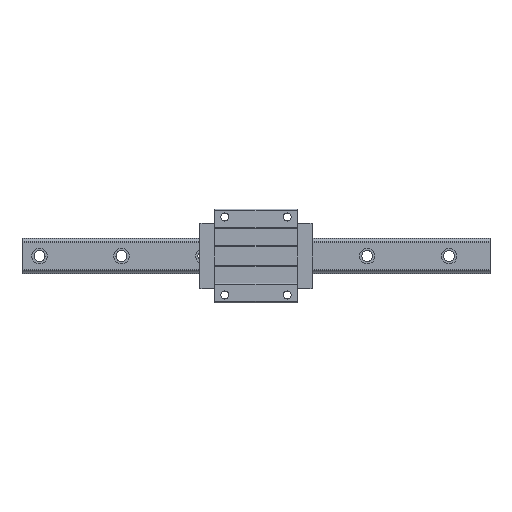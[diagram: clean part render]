
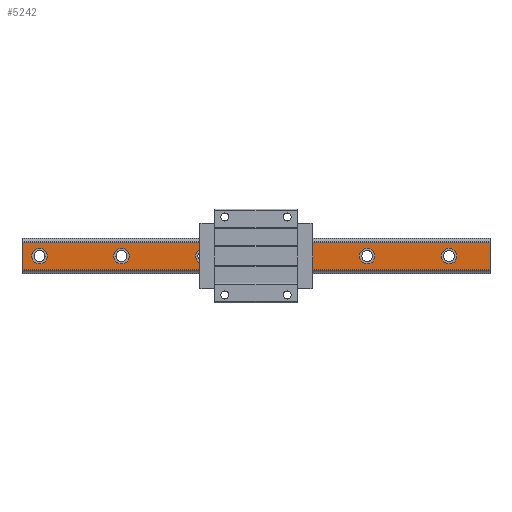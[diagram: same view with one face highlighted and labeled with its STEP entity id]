
A CAD part, top view. The second image highlights one B-rep face of the part: STEP entity #5242.
In plain terms, the highlighted planar face has unit normal (0, 0, 1).
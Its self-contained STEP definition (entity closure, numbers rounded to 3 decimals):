
#33 = EDGE_CURVE ( 'NONE', #6596, #578, #178, .T. ) ;
#52 = DIRECTION ( 'NONE',  ( -1., 0., 0. ) ) ;
#84 = EDGE_CURVE ( 'NONE', #4070, #6828, #4491, .T. ) ;
#178 = CIRCLE ( 'NONE', #299, 10. ) ;
#191 = CIRCLE ( 'NONE', #4862, 10. ) ;
#208 = ORIENTED_EDGE ( 'NONE', *, *, #3555, .F. ) ;
#223 = VERTEX_POINT ( 'NONE', #5679 ) ;
#256 = CARTESIAN_POINT ( 'NONE',  ( -300., -17.738, 32. ) ) ;
#287 = DIRECTION ( 'NONE',  ( 1., 0., 0. ) ) ;
#299 = AXIS2_PLACEMENT_3D ( 'NONE', #3588, #4596, #6356 ) ;
#455 = FACE_BOUND ( 'NONE', #4272, .T. ) ;
#472 = DIRECTION ( 'NONE',  ( 1., 0., 0. ) ) ;
#485 = CIRCLE ( 'NONE', #5388, 10. ) ;
#505 = EDGE_LOOP ( 'NONE', ( #4504, #1617 ) ) ;
#533 = DIRECTION ( 'NONE',  ( 0., 0., 1. ) ) ;
#578 = VERTEX_POINT ( 'NONE', #2664 ) ;
#604 = CARTESIAN_POINT ( 'NONE',  ( 27.5, 0., 32. ) ) ;
#677 = AXIS2_PLACEMENT_3D ( 'NONE', #1226, #5194, #5721 ) ;
#724 = LINE ( 'NONE', #1427, #878 ) ;
#748 = CARTESIAN_POINT ( 'NONE',  ( 300., 17.738, 32. ) ) ;
#865 = DIRECTION ( 'NONE',  ( 0., -1., 0. ) ) ;
#878 = VECTOR ( 'NONE', #865, 1000. ) ;
#883 = CARTESIAN_POINT ( 'NONE',  ( -172.5, 0., 32. ) ) ;
#928 = CARTESIAN_POINT ( 'NONE',  ( -300., -17.738, 32. ) ) ;
#1077 = ORIENTED_EDGE ( 'NONE', *, *, #5182, .F. ) ;
#1085 = DIRECTION ( 'NONE',  ( 0., -1., 0. ) ) ;
#1110 = EDGE_LOOP ( 'NONE', ( #5465, #3053, #2843, #7243 ) ) ;
#1161 = PLANE ( 'NONE',  #6902 ) ;
#1226 = CARTESIAN_POINT ( 'NONE',  ( 37.5, 0., 32. ) ) ;
#1249 = EDGE_CURVE ( 'NONE', #578, #6596, #2458, .T. ) ;
#1323 = CARTESIAN_POINT ( 'NONE',  ( 300., -17.738, 32. ) ) ;
#1372 = DIRECTION ( 'NONE',  ( -1., 0., 0. ) ) ;
#1427 = CARTESIAN_POINT ( 'NONE',  ( 300., -17.738, 32. ) ) ;
#1585 = CARTESIAN_POINT ( 'NONE',  ( 142.5, 0., 32. ) ) ;
#1593 = CARTESIAN_POINT ( 'NONE',  ( -77.5, 0., 32. ) ) ;
#1617 = ORIENTED_EDGE ( 'NONE', *, *, #7011, .F. ) ;
#1650 = FACE_BOUND ( 'NONE', #2012, .T. ) ;
#1796 = VECTOR ( 'NONE', #1372, 1000. ) ;
#1819 = AXIS2_PLACEMENT_3D ( 'NONE', #7057, #4127, #6469 ) ;
#1840 = ORIENTED_EDGE ( 'NONE', *, *, #6506, .F. ) ;
#1862 = VERTEX_POINT ( 'NONE', #4531 ) ;
#1930 = LINE ( 'NONE', #4231, #1796 ) ;
#1987 = DIRECTION ( 'NONE',  ( 0., 0., 1. ) ) ;
#2012 = EDGE_LOOP ( 'NONE', ( #4780, #208 ) ) ;
#2128 = CARTESIAN_POINT ( 'NONE',  ( -287.5, 0., 32. ) ) ;
#2242 = CIRCLE ( 'NONE', #3086, 10. ) ;
#2258 = EDGE_CURVE ( 'NONE', #1862, #3274, #4497, .T. ) ;
#2278 = CARTESIAN_POINT ( 'NONE',  ( 300., -17.738, 32. ) ) ;
#2314 = FACE_BOUND ( 'NONE', #6465, .T. ) ;
#2319 = CARTESIAN_POINT ( 'NONE',  ( -172.5, 0., 32. ) ) ;
#2320 = VERTEX_POINT ( 'NONE', #3319 ) ;
#2331 = DIRECTION ( 'NONE',  ( 1., 0., 0. ) ) ;
#2352 = VERTEX_POINT ( 'NONE', #1593 ) ;
#2458 = CIRCLE ( 'NONE', #677, 10. ) ;
#2491 = DIRECTION ( 'NONE',  ( 0., 0., 1. ) ) ;
#2493 = EDGE_CURVE ( 'NONE', #5320, #2352, #191, .T. ) ;
#2537 = CARTESIAN_POINT ( 'NONE',  ( 152.5, 0., 32. ) ) ;
#2559 = CARTESIAN_POINT ( 'NONE',  ( 142.5, 0., 32. ) ) ;
#2585 = DIRECTION ( 'NONE',  ( 1., 0., 0. ) ) ;
#2664 = CARTESIAN_POINT ( 'NONE',  ( 47.5, 0., 32. ) ) ;
#2745 = AXIS2_PLACEMENT_3D ( 'NONE', #2319, #533, #5773 ) ;
#2843 = ORIENTED_EDGE ( 'NONE', *, *, #4744, .F. ) ;
#3011 = VERTEX_POINT ( 'NONE', #256 ) ;
#3046 = DIRECTION ( 'NONE',  ( 1., 0., 0. ) ) ;
#3053 = ORIENTED_EDGE ( 'NONE', *, *, #4556, .F. ) ;
#3086 = AXIS2_PLACEMENT_3D ( 'NONE', #3340, #5131, #3407 ) ;
#3171 = DIRECTION ( 'NONE',  ( 0., 0., 1. ) ) ;
#3267 = VECTOR ( 'NONE', #3782, 1000. ) ;
#3274 = VERTEX_POINT ( 'NONE', #2128 ) ;
#3319 = CARTESIAN_POINT ( 'NONE',  ( -162.5, 0., 32. ) ) ;
#3340 = CARTESIAN_POINT ( 'NONE',  ( 247.5, 0., 32. ) ) ;
#3349 = DIRECTION ( 'NONE',  ( 0., 0., 1. ) ) ;
#3354 = CARTESIAN_POINT ( 'NONE',  ( -57.5, 0., 32. ) ) ;
#3407 = DIRECTION ( 'NONE',  ( 1., 0., 0. ) ) ;
#3555 = EDGE_CURVE ( 'NONE', #3274, #1862, #3741, .T. ) ;
#3588 = CARTESIAN_POINT ( 'NONE',  ( 37.5, 0., 32. ) ) ;
#3643 = EDGE_CURVE ( 'NONE', #6546, #3011, #6133, .T. ) ;
#3709 = ORIENTED_EDGE ( 'NONE', *, *, #84, .F. ) ;
#3741 = CIRCLE ( 'NONE', #1819, 10. ) ;
#3782 = DIRECTION ( 'NONE',  ( 0., -1., 0. ) ) ;
#3869 = ORIENTED_EDGE ( 'NONE', *, *, #7109, .F. ) ;
#3946 = FACE_BOUND ( 'NONE', #505, .T. ) ;
#3964 = CARTESIAN_POINT ( 'NONE',  ( -277.5, 0., 32. ) ) ;
#3981 = ORIENTED_EDGE ( 'NONE', *, *, #4429, .F. ) ;
#4070 = VERTEX_POINT ( 'NONE', #7279 ) ;
#4124 = ORIENTED_EDGE ( 'NONE', *, *, #33, .F. ) ;
#4127 = DIRECTION ( 'NONE',  ( 0., 0., 1. ) ) ;
#4189 = CIRCLE ( 'NONE', #2745, 10. ) ;
#4231 = CARTESIAN_POINT ( 'NONE',  ( 300., 17.738, 32. ) ) ;
#4272 = EDGE_LOOP ( 'NONE', ( #1840, #3869 ) ) ;
#4422 = AXIS2_PLACEMENT_3D ( 'NONE', #5351, #2491, #4789 ) ;
#4429 = EDGE_CURVE ( 'NONE', #6828, #4070, #5067, .T. ) ;
#4491 = CIRCLE ( 'NONE', #7216, 10. ) ;
#4497 = CIRCLE ( 'NONE', #6759, 10. ) ;
#4504 = ORIENTED_EDGE ( 'NONE', *, *, #2493, .F. ) ;
#4526 = DIRECTION ( 'NONE',  ( 0., 0., 1. ) ) ;
#4531 = CARTESIAN_POINT ( 'NONE',  ( -267.5, 0., 32. ) ) ;
#4556 = EDGE_CURVE ( 'NONE', #6353, #3011, #7333, .T. ) ;
#4596 = DIRECTION ( 'NONE',  ( 0., 0., 1. ) ) ;
#4606 = FACE_OUTER_BOUND ( 'NONE', #1110, .T. ) ;
#4664 = DIRECTION ( 'NONE',  ( 0., 0., 1. ) ) ;
#4715 = CIRCLE ( 'NONE', #6507, 10. ) ;
#4744 = EDGE_CURVE ( 'NONE', #6800, #6353, #724, .T. ) ;
#4780 = ORIENTED_EDGE ( 'NONE', *, *, #2258, .F. ) ;
#4789 = DIRECTION ( 'NONE',  ( 1., 0., 0. ) ) ;
#4859 = DIRECTION ( 'NONE',  ( 0., 0., 1. ) ) ;
#4862 = AXIS2_PLACEMENT_3D ( 'NONE', #5225, #4664, #3046 ) ;
#4971 = EDGE_LOOP ( 'NONE', ( #6810, #4124 ) ) ;
#5035 = ORIENTED_EDGE ( 'NONE', *, *, #5051, .F. ) ;
#5051 = EDGE_CURVE ( 'NONE', #6405, #6972, #4715, .T. ) ;
#5067 = CIRCLE ( 'NONE', #5671, 10. ) ;
#5131 = DIRECTION ( 'NONE',  ( 0., 0., 1. ) ) ;
#5182 = EDGE_CURVE ( 'NONE', #6972, #6405, #2242, .T. ) ;
#5194 = DIRECTION ( 'NONE',  ( 0., 0., 1. ) ) ;
#5225 = CARTESIAN_POINT ( 'NONE',  ( -67.5, 0., 32. ) ) ;
#5242 = ADVANCED_FACE ( 'NONE', ( #1650, #455, #3946, #6225, #6736, #2314, #4606 ), #1161, .F. ) ;
#5310 = EDGE_LOOP ( 'NONE', ( #3981, #3709 ) ) ;
#5311 = CARTESIAN_POINT ( 'NONE',  ( 237.5, 0., 32. ) ) ;
#5320 = VERTEX_POINT ( 'NONE', #3354 ) ;
#5351 = CARTESIAN_POINT ( 'NONE',  ( -67.5, 0., 32. ) ) ;
#5388 = AXIS2_PLACEMENT_3D ( 'NONE', #883, #3171, #472 ) ;
#5465 = ORIENTED_EDGE ( 'NONE', *, *, #3643, .T. ) ;
#5631 = CARTESIAN_POINT ( 'NONE',  ( -300., 17.738, 32. ) ) ;
#5671 = AXIS2_PLACEMENT_3D ( 'NONE', #1585, #3349, #6159 ) ;
#5679 = CARTESIAN_POINT ( 'NONE',  ( -182.5, 0., 32. ) ) ;
#5721 = DIRECTION ( 'NONE',  ( 1., 0., 0. ) ) ;
#5743 = CARTESIAN_POINT ( 'NONE',  ( 300., -17.738, 32. ) ) ;
#5773 = DIRECTION ( 'NONE',  ( 1., 0., 0. ) ) ;
#5984 = CIRCLE ( 'NONE', #4422, 10. ) ;
#6001 = CARTESIAN_POINT ( 'NONE',  ( 257.5, 0., 32. ) ) ;
#6133 = LINE ( 'NONE', #928, #3267 ) ;
#6148 = CARTESIAN_POINT ( 'NONE',  ( 247.5, 0., 32. ) ) ;
#6159 = DIRECTION ( 'NONE',  ( 1., 0., 0. ) ) ;
#6225 = FACE_BOUND ( 'NONE', #4971, .T. ) ;
#6353 = VERTEX_POINT ( 'NONE', #1323 ) ;
#6356 = DIRECTION ( 'NONE',  ( 1., 0., 0. ) ) ;
#6405 = VERTEX_POINT ( 'NONE', #6001 ) ;
#6465 = EDGE_LOOP ( 'NONE', ( #5035, #1077 ) ) ;
#6469 = DIRECTION ( 'NONE',  ( 1., 0., 0. ) ) ;
#6506 = EDGE_CURVE ( 'NONE', #2320, #223, #4189, .T. ) ;
#6507 = AXIS2_PLACEMENT_3D ( 'NONE', #6148, #1987, #2585 ) ;
#6546 = VERTEX_POINT ( 'NONE', #5631 ) ;
#6596 = VERTEX_POINT ( 'NONE', #604 ) ;
#6620 = VECTOR ( 'NONE', #52, 1000. ) ;
#6736 = FACE_BOUND ( 'NONE', #5310, .T. ) ;
#6759 = AXIS2_PLACEMENT_3D ( 'NONE', #3964, #4526, #2331 ) ;
#6800 = VERTEX_POINT ( 'NONE', #748 ) ;
#6810 = ORIENTED_EDGE ( 'NONE', *, *, #1249, .F. ) ;
#6828 = VERTEX_POINT ( 'NONE', #2537 ) ;
#6839 = DIRECTION ( 'NONE',  ( 0., 0., -1. ) ) ;
#6902 = AXIS2_PLACEMENT_3D ( 'NONE', #2278, #6839, #1085 ) ;
#6972 = VERTEX_POINT ( 'NONE', #5311 ) ;
#7011 = EDGE_CURVE ( 'NONE', #2352, #5320, #5984, .T. ) ;
#7012 = EDGE_CURVE ( 'NONE', #6800, #6546, #1930, .T. ) ;
#7057 = CARTESIAN_POINT ( 'NONE',  ( -277.5, 0., 32. ) ) ;
#7109 = EDGE_CURVE ( 'NONE', #223, #2320, #485, .T. ) ;
#7216 = AXIS2_PLACEMENT_3D ( 'NONE', #2559, #4859, #287 ) ;
#7243 = ORIENTED_EDGE ( 'NONE', *, *, #7012, .T. ) ;
#7279 = CARTESIAN_POINT ( 'NONE',  ( 132.5, 0., 32. ) ) ;
#7333 = LINE ( 'NONE', #5743, #6620 ) ;
